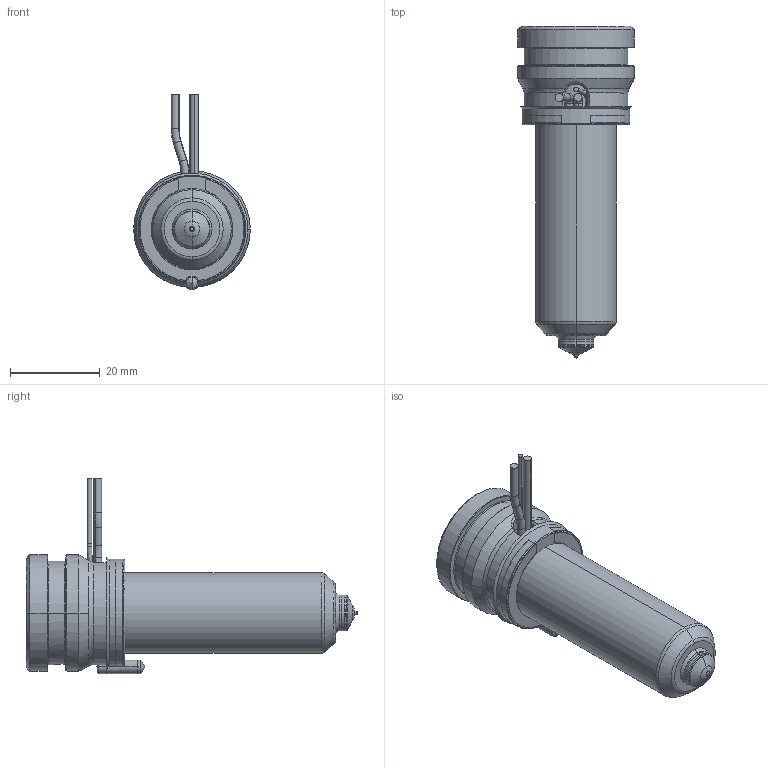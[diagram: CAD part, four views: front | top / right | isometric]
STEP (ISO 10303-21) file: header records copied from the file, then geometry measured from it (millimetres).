
FILE_DESCRIPTION((''),'2;1');
FILE_NAME('MPN-08-24-VSA8-056-A','2026-02-05T12:03:00',('UPTIO'),('Thermoplay S.p.A.'),'CREO PARAMETRIC BY PTC INC, 2023494','CREO PARAMETRIC BY PTC INC, 2023494','');
FILE_SCHEMA(('CONFIG_CONTROL_DESIGN','SHAPE_APPEARANCE_LAYERS_GROUPS'));
Length unit declared in the file: millimetre
Products named in the file (1): MPN-08-24-VSA8-056-A
Bounding box: 26 x 74 x 43.5 mm (x, y, z)
Volume: 15891.8 mm3; surface area: 19053.2 mm2
Topology: 2 solids, 3 shells, 543 faces, 1440 edges, 895 vertices
Faces by surface type: cylinder 182, plane 143, bspline 80, torus 62, cone 60, sphere 10, extrusion 6
Entity records: 29796 total; most frequent: CARTESIAN_POINT 13598, ORIENTED_EDGE 2864, DIRECTION 2580, EDGE_CURVE 1432, AXIS2_PLACEMENT_3D 1007, VERTEX_POINT 895, EDGE_LOOP 571, VECTOR 566
